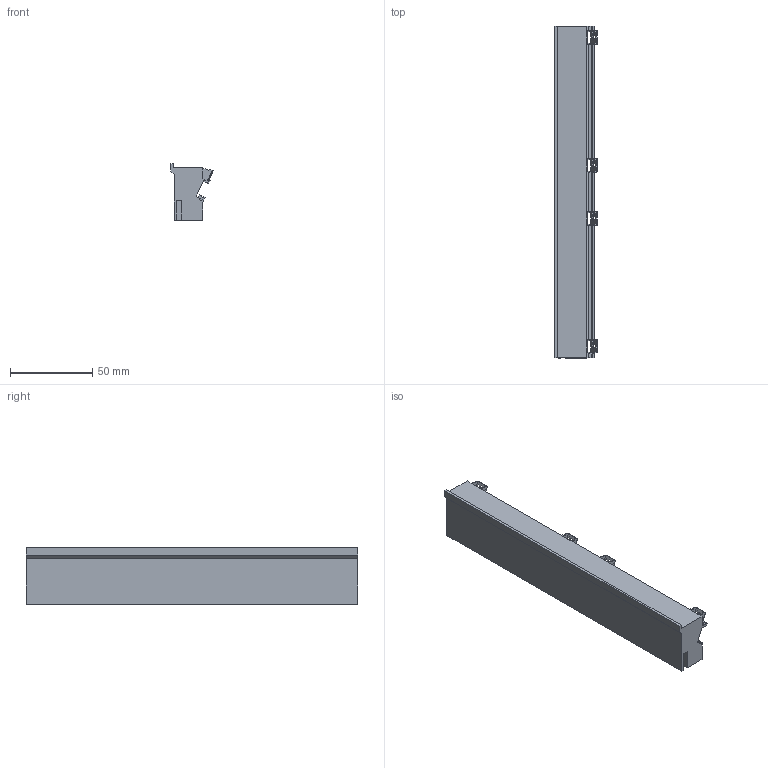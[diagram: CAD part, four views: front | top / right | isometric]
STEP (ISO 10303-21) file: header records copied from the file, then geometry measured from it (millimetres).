
FILE_DESCRIPTION(('Open CASCADE Model'),'2;1');
FILE_NAME('SOLID','2026-10-21T18:57:22',('Author'),('Open CASCADE'), 'Open CASCADE STEP processor 8.0','build123d','Unknown');
FILE_SCHEMA(('AUTOMOTIVE_DESIGN { 1 0 10303 214 1 1 1 1 }'));
Products named in the file (1): SOLID
Bounding box: 25.92 x 202 x 34.5 mm (x, y, z)
Volume: 110728.2 mm3; surface area: 27354.6 mm2
Topology: 1 solids, 1 shells, 612 faces, 1736 edges, 1114 vertices
Faces by surface type: plane 335, cylinder 276, bspline 1
Entity records: 46981 total; most frequent: CARTESIAN_POINT 13948, DIRECTION 5885, ORIENTED_EDGE 3472, PCURVE 3472, DEFINITIONAL_REPRESENTATION 3472, LINE 2654, VECTOR 2654, EDGE_CURVE 1736
